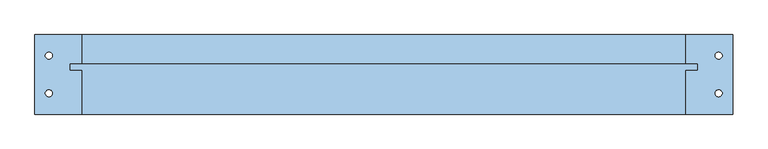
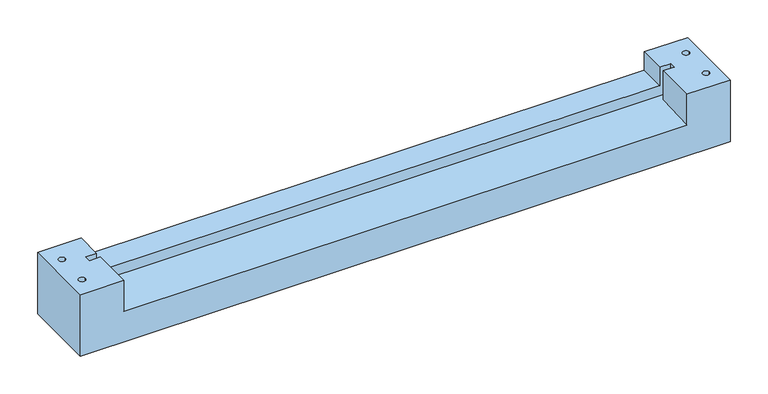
"""IFC4 building model written with IfcOpenShell, lengths in millimetres: window geometry, 30_NS_BI_51-57 : BI-51_neut30."""

from ifc_helpers import new_model, si_unit, frame, origin, place, context, project, spatial, polyline, circle_curve, source, transform, mapped, element, save
from ifc_brep_helpers import plane_surface, revolved_surface, advanced_brep


def window_af69cd9d(model_context):
    return source(origin(), model_context, "Body", "AdvancedBrep", [
        advanced_brep(
        [(0.0, -114.0, 0.0), (0.0, 0.0, 0.0), (1000.0, 0.0, 0.0), (1000.0, -114.0, 0.0), (975.0, -84.0, 0.0), (985.0, -84.0, 0.0), (975.0, -30.0, 0.0), (985.0, -30.0, 0.0), (15.0, -84.0, 0.0), (25.0, -84.0, 0.0), (15.0, -30.0, 0.0), (25.0, -30.0, 0.0), (67.0, 0.0, 100.0), (0.0, 0.0, 100.0), (0.0, -114.0, 100.0), (67.0, -114.0, 100.0), (67.0, -51.0, 100.0), (50.0, -51.0, 100.0), (50.0, -41.0, 100.0), (67.0, -41.0, 100.0), (25.0, -84.0, 100.0), (15.0, -84.0, 100.0), (25.0, -30.0, 100.0), (15.0, -30.0, 100.0), (1000.0, 0.0, 100.0), (1000.0, -114.0, 100.0), (50.0, -41.0, 53.0), (50.0, -51.0, 52.6232001), (67.0, -51.0, 52.6232001), (67.0, -114.0, 50.2493606), (933.0, -114.0, 50.2493606), (933.0, -51.0, 52.6232001), (950.0, -51.0, 52.6232001), (950.0, -41.0, 53.0), (975.0, -84.0, 100.0), (985.0, -84.0, 100.0), (975.0, -30.0, 100.0), (985.0, -30.0, 100.0), (950.0, -41.0, 100.0), (933.0, -41.0, 100.0), (933.0, -41.0, 70.0), (67.0, -41.0, 70.0), (933.0, -114.0, 100.0), (67.0, 0.0, 70.0), (933.0, 0.0, 70.0), (933.0, 0.0, 100.0), (933.0, -51.0, 100.0), (950.0, -51.0, 100.0)],
        [
            (0, 1),
            (1, 2),
            (2, 3),
            (3, 0),
            (4, 5, circle_curve(frame((980.0, -84.0, 0.0), z_axis=(0.0, 0.0, 1.0), x_axis=(1.0, 0.0, 0.0)), 5.0)),
            (5, 4, circle_curve(frame((980.0, -84.0, 0.0), z_axis=(0.0, 0.0, 1.0), x_axis=(1.0, 0.0, 0.0)), 5.0)),
            (6, 7, circle_curve(frame((980.0, -30.0, 0.0), z_axis=(0.0, 0.0, 1.0), x_axis=(1.0, 0.0, 0.0)), 5.0)),
            (7, 6, circle_curve(frame((980.0, -30.0, 0.0), z_axis=(0.0, 0.0, 1.0), x_axis=(1.0, 0.0, 0.0)), 5.0)),
            (8, 9, circle_curve(frame((20.0, -84.0, 0.0), z_axis=(0.0, 0.0, 1.0), x_axis=(1.0, 0.0, 0.0)), 5.0)),
            (9, 8, circle_curve(frame((20.0, -84.0, 0.0), z_axis=(0.0, 0.0, 1.0), x_axis=(1.0, 0.0, 0.0)), 5.0)),
            (10, 11, circle_curve(frame((20.0, -30.0, 0.0), z_axis=(0.0, 0.0, 1.0), x_axis=(1.0, 0.0, 0.0)), 5.0)),
            (11, 10, circle_curve(frame((20.0, -30.0, 0.0), z_axis=(0.0, 0.0, 1.0), x_axis=(1.0, 0.0, 0.0)), 5.0)),
            (12, 13),
            (13, 14),
            (14, 15),
            (15, 16),
            (16, 17),
            (17, 18),
            (18, 19),
            (19, 12),
            (20, 21, circle_curve(frame((20.0, -84.0, 100.0), z_axis=(0.0, 0.0, -1.0), x_axis=(1.0, 0.0, 0.0)), 5.0)),
            (21, 20, circle_curve(frame((20.0, -84.0, 100.0), z_axis=(0.0, 0.0, -1.0), x_axis=(1.0, 0.0, 0.0)), 5.0)),
            (22, 23, circle_curve(frame((20.0, -30.0, 100.0), z_axis=(0.0, 0.0, -1.0), x_axis=(1.0, 0.0, 0.0)), 5.0)),
            (23, 22, circle_curve(frame((20.0, -30.0, 100.0), z_axis=(0.0, 0.0, -1.0), x_axis=(1.0, 0.0, 0.0)), 5.0)),
            (2, 24),
            (24, 25),
            (25, 3),
            (26, 27),
            (27, 28),
            (28, 29),
            (29, 30),
            (30, 31),
            (31, 32),
            (32, 33),
            (33, 26),
            (4, 34),
            (34, 35, circle_curve(frame((980.0, -84.0, 100.0), z_axis=(0.0, 0.0, 1.0), x_axis=(1.0, 0.0, 0.0)), 5.0)),
            (35, 5),
            (35, 34, circle_curve(frame((980.0, -84.0, 100.0), z_axis=(0.0, 0.0, 1.0), x_axis=(1.0, 0.0, 0.0)), 5.0)),
            (6, 36),
            (36, 37, circle_curve(frame((980.0, -30.0, 100.0), z_axis=(0.0, 0.0, 1.0), x_axis=(1.0, 0.0, 0.0)), 5.0)),
            (37, 7),
            (37, 36, circle_curve(frame((980.0, -30.0, 100.0), z_axis=(0.0, 0.0, 1.0), x_axis=(1.0, 0.0, 0.0)), 5.0)),
            (8, 21),
            (20, 9),
            (10, 23),
            (22, 11),
            (18, 26),
            (33, 38),
            (38, 39),
            (39, 40),
            (40, 41),
            (41, 19),
            (17, 27),
            (16, 28),
            (15, 29),
            (14, 0),
            (25, 42),
            (42, 30),
            (13, 1),
            (12, 43),
            (43, 44),
            (44, 45),
            (45, 24),
            (42, 46),
            (46, 31),
            (46, 47),
            (47, 32),
            (47, 38),
            (43, 41),
            (40, 44),
            (45, 39),
        ],
        [
            plane_surface(frame((0.0, 0.0, 0.0), z_axis=(0.0, 0.0, -1.0), x_axis=(1.0, 0.0, 0.0))),
            plane_surface(frame((0.0, 0.0, 100.0), z_axis=(0.0, 0.0, 1.0), x_axis=(1.0, 0.0, 0.0))),
            plane_surface(frame((1000.0, 0.0, 0.0), z_axis=(1.0, 0.0, 0.0), x_axis=(0.0, 0.0, 1.0))),
            plane_surface(frame((0.0, -114.0, 50.2493606), z_axis=(0.0, -0.03765327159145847, 0.9992908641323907), x_axis=(1.0, 0.0, 0.0))),
            revolved_surface(polyline([(985.0, -84.0, 0.0), (985.0, -84.0, 100.0)]), (980.0, -84.0, 0.0), (0.0, 0.0, -1.0)),
            revolved_surface(polyline([(985.0, -30.0, 0.0), (985.0, -30.0, 100.0)]), (980.0, -30.0, 0.0), (0.0, 0.0, -1.0)),
            revolved_surface(polyline([(25.0, -84.0, 0.0), (25.0, -84.0, 100.0)]), (20.0, -84.0, 0.0), (0.0, 0.0, -1.0)),
            revolved_surface(polyline([(25.0, -30.0, 0.0), (25.0, -30.0, 100.0)]), (20.0, -30.0, 0.0), (0.0, 0.0, -1.0)),
            plane_surface(frame((67.0, -41.0, 0.0), z_axis=(0.0, -1.0, 0.0), x_axis=(0.0, 0.0, 1.0))),
            plane_surface(frame((50.0, -41.0, 0.0), z_axis=(1.0, 0.0, 0.0), x_axis=(0.0, 0.0, 1.0))),
            plane_surface(frame((50.0, -51.0, 0.0), z_axis=(0.0, 1.0, 0.0), x_axis=(0.0, 0.0, 1.0))),
            plane_surface(frame((67.0, -51.0, 0.0), z_axis=(1.0, 0.0, 0.0), x_axis=(0.0, 0.0, 1.0))),
            plane_surface(frame((67.0, -114.0, 0.0), z_axis=(0.0, -1.0, 0.0), x_axis=(0.0, 0.0, 1.0))),
            plane_surface(frame((0.0, -114.0, 0.0), z_axis=(-1.0, 0.0, 0.0), x_axis=(0.0, 0.0, 1.0))),
            plane_surface(frame((0.0, 0.0, 0.0), z_axis=(0.0, 1.0, 0.0), x_axis=(0.0, 0.0, 1.0))),
            plane_surface(frame((933.0, -114.0, 0.0), z_axis=(-1.0, 0.0, 0.0), x_axis=(0.0, 0.0, 1.0))),
            plane_surface(frame((933.0, -51.0, 0.0), z_axis=(0.0, 1.0, 0.0), x_axis=(0.0, 0.0, 1.0))),
            plane_surface(frame((950.0, -51.0, 0.0), z_axis=(-1.0, 0.0, 0.0), x_axis=(0.0, 0.0, 1.0))),
            plane_surface(frame((0.0, -41.0, 70.0), z_axis=(0.0, 0.0, 1.0), x_axis=(1.0, 0.0, 0.0))),
            plane_surface(frame((1000.0, 0.0, 100.0), z_axis=(0.0, 0.0, 1.0), x_axis=(1.0, 0.0, 0.0))),
            plane_surface(frame((67.0, 0.0, 0.0), z_axis=(1.0, 0.0, 0.0), x_axis=(0.0, 0.0, 1.0))),
            plane_surface(frame((933.0, -41.0, 0.0), z_axis=(-1.0, 0.0, 0.0), x_axis=(0.0, 0.0, 1.0))),
        ],
        [
            (0, [[1, 2, 3, 4], [5, 6], [7, 8], [9, 10], [11, 12]]),
            (1, [[13, 14, 15, 16, 17, 18, 19, 20], [21, 22], [23, 24]]),
            (2, [[-3, 25, 26, 27]]),
            (3, [[28, 29, 30, 31, 32, 33, 34, 35]]),
            (4, [[36, 37, 38, -5]]),
            (4, [[-36, -6, -38, 39]]),
            (5, [[40, 41, 42, -7]]),
            (5, [[-40, -8, -42, 43]]),
            (6, [[44, -21, 45, -9]]),
            (6, [[-44, -10, -45, -22]]),
            (7, [[46, -23, 47, -11]]),
            (7, [[-46, -12, -47, -24]]),
            (8, [[-19, 48, -35, 49, 50, 51, 52, 53]]),
            (9, [[-18, 54, -28, -48]]),
            (10, [[-17, 55, -29, -54]]),
            (11, [[-16, 56, -30, -55]]),
            (12, [[-15, 57, -4, -27, 58, 59, -31, -56]]),
            (13, [[-1, -57, -14, 60]]),
            (14, [[-13, 61, 62, 63, 64, -25, -2, -60]]),
            (15, [[65, 66, -32, -59]]),
            (16, [[67, 68, -33, -66]]),
            (17, [[69, -49, -34, -68]]),
            (18, [[70, -52, 71, -62]]),
            (19, [[72, -50, -69, -67, -65, -58, -26, -64], [-41, -43], [-37, -39]]),
            (20, [[-20, -53, -70, -61]]),
            (21, [[-72, -63, -71, -51]]),
        ],
    ),
    ])


if __name__ == "__main__":
    model = new_model("IFC4")
    model_context = context("Model", 3, world=origin())
    ifc_project = project(units=[si_unit("LENGTHUNIT", "METRE", prefix="MILLI")], contexts=[model_context])
    site = spatial("IfcSite", under=ifc_project)
    building = spatial("IfcBuilding", under=site)
    placement = place(None, origin())
    window_shape = window_af69cd9d(model_context)
    element("IfcWindow", 1, ObjectType="30_NS_BI_51-57 : BI-51_neut30", at=placement, inside=building, context=model_context, shape_type="MappedRepresentation", body=[
        mapped(window_shape, transform((0.0, 0.0, 0.0), x_axis=(1.0, 0.0, 0.0), y_axis=(0.0, 1.0, 0.0), z_axis=(0.0, 0.0, 1.0))),
    ])
    save(model, "model.ifc")
